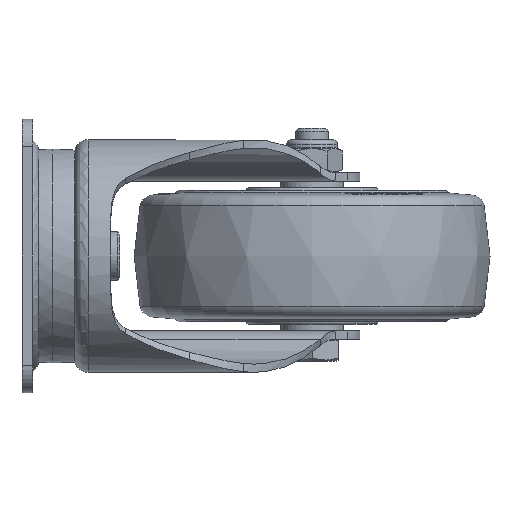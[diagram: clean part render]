
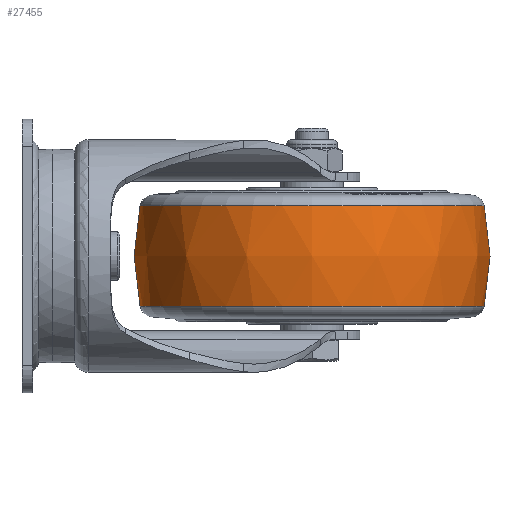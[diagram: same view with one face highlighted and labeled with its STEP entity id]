
A CAD part, left-side view. The second image highlights one B-rep face of the part: STEP entity #27455.
In plain terms, the highlighted free-form (B-spline) face has degree [2, 2] with [3, 9] control points.
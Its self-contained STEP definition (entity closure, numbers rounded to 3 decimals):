
#327=(
BOUNDED_SURFACE()
B_SPLINE_SURFACE(2,2,((#43761,#43762,#43763,#43764,#43765,#43766,#43767,
#43768,#43769),(#43770,#43771,#43772,#43773,#43774,#43775,#43776,#43777,
#43778),(#43779,#43780,#43781,#43782,#43783,#43784,#43785,#43786,#43787)),
 .UNSPECIFIED.,.F.,.T.,.F.)
B_SPLINE_SURFACE_WITH_KNOTS((3,3),(3,2,2,2,3),(-0.233,0.233),
(-3.142,-1.571,0.,1.571,3.142),
 .UNSPECIFIED.)
GEOMETRIC_REPRESENTATION_ITEM()
RATIONAL_B_SPLINE_SURFACE(((1.,0.707,1.,0.707,1.,
0.707,1.,0.707,1.),(0.973,0.688,
0.973,0.688,0.973,0.688,
0.973,0.688,0.973),(1.,0.707,
1.,0.707,1.,0.707,1.,0.707,1.)))
REPRESENTATION_ITEM('')
SURFACE()
);
#5558=FACE_OUTER_BOUND('',#7300,.T.);
#7300=EDGE_LOOP('',(#19732,#19733,#19734,#19735));
#8775=CIRCLE('',#29116,62.847);
#8776=CIRCLE('',#29117,62.847);
#8777=CIRCLE('',#29118,80.);
#11478=VERTEX_POINT('',#43758);
#11479=VERTEX_POINT('',#43788);
#14500=EDGE_CURVE('',#11478,#11478,#8775,.T.);
#14501=EDGE_CURVE('',#11479,#11479,#8776,.T.);
#14502=EDGE_CURVE('',#11479,#11478,#8777,.T.);
#19732=ORIENTED_EDGE('',*,*,#14501,.F.);
#19733=ORIENTED_EDGE('',*,*,#14502,.T.);
#19734=ORIENTED_EDGE('',*,*,#14500,.F.);
#19735=ORIENTED_EDGE('',*,*,#14502,.F.);
#27455=ADVANCED_FACE('',(#5558),#327,.F.);
#29116=AXIS2_PLACEMENT_3D('',#43760,#31649,#31650);
#29117=AXIS2_PLACEMENT_3D('',#43789,#31651,#31652);
#29118=AXIS2_PLACEMENT_3D('',#43790,#31653,#31654);
#31649=DIRECTION('center_axis',(0.,0.,
-1.));
#31650=DIRECTION('ref_axis',(-1.,0.,0.));
#31651=DIRECTION('center_axis',(0.,0.,
1.));
#31652=DIRECTION('ref_axis',(-1.,0.,0.));
#31653=DIRECTION('center_axis',(0.,1.,0.));
#31654=DIRECTION('ref_axis',(1.,0.,0.));
#43758=CARTESIAN_POINT('',(112.847,-106.001,-18.435));
#43760=CARTESIAN_POINT('Origin',(50.,-106.001,-18.435));
#43761=CARTESIAN_POINT('Ctrl Pts',(112.847,-106.001,18.435));
#43762=CARTESIAN_POINT('Ctrl Pts',(112.847,-168.848,18.435));
#43763=CARTESIAN_POINT('Ctrl Pts',(50.,-168.848,18.435));
#43764=CARTESIAN_POINT('Ctrl Pts',(-12.847,-168.848,
18.435));
#43765=CARTESIAN_POINT('Ctrl Pts',(-12.847,-106.001,
18.435));
#43766=CARTESIAN_POINT('Ctrl Pts',(-12.847,-43.154,18.435));
#43767=CARTESIAN_POINT('Ctrl Pts',(50.,-43.154,18.435));
#43768=CARTESIAN_POINT('Ctrl Pts',(112.847,-43.154,18.435));
#43769=CARTESIAN_POINT('Ctrl Pts',(112.847,-106.001,18.435));
#43770=CARTESIAN_POINT('Ctrl Pts',(117.213,-106.001,0.));
#43771=CARTESIAN_POINT('Ctrl Pts',(117.213,-173.214,0.));
#43772=CARTESIAN_POINT('Ctrl Pts',(50.,-173.214,0.));
#43773=CARTESIAN_POINT('Ctrl Pts',(-17.213,-173.214,
0.));
#43774=CARTESIAN_POINT('Ctrl Pts',(-17.213,-106.001,
0.));
#43775=CARTESIAN_POINT('Ctrl Pts',(-17.213,-38.789,
0.));
#43776=CARTESIAN_POINT('Ctrl Pts',(50.,-38.789,0.));
#43777=CARTESIAN_POINT('Ctrl Pts',(117.213,-38.789,0.));
#43778=CARTESIAN_POINT('Ctrl Pts',(117.213,-106.001,0.));
#43779=CARTESIAN_POINT('Ctrl Pts',(112.847,-106.001,-18.435));
#43780=CARTESIAN_POINT('Ctrl Pts',(112.847,-168.848,-18.435));
#43781=CARTESIAN_POINT('Ctrl Pts',(50.,-168.848,-18.435));
#43782=CARTESIAN_POINT('Ctrl Pts',(-12.847,-168.848,
-18.435));
#43783=CARTESIAN_POINT('Ctrl Pts',(-12.847,-106.001,
-18.435));
#43784=CARTESIAN_POINT('Ctrl Pts',(-12.847,-43.154,-18.435));
#43785=CARTESIAN_POINT('Ctrl Pts',(50.,-43.154,-18.435));
#43786=CARTESIAN_POINT('Ctrl Pts',(112.847,-43.154,-18.435));
#43787=CARTESIAN_POINT('Ctrl Pts',(112.847,-106.001,-18.435));
#43788=CARTESIAN_POINT('',(112.847,-106.001,18.435));
#43789=CARTESIAN_POINT('Origin',(50.,-106.001,18.435));
#43790=CARTESIAN_POINT('Origin',(35.,-106.001,0.));
